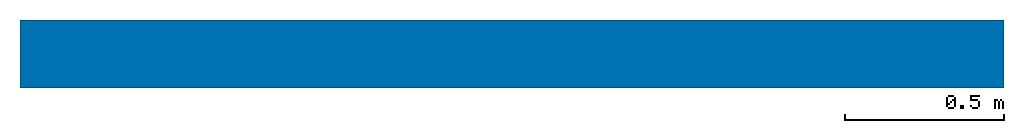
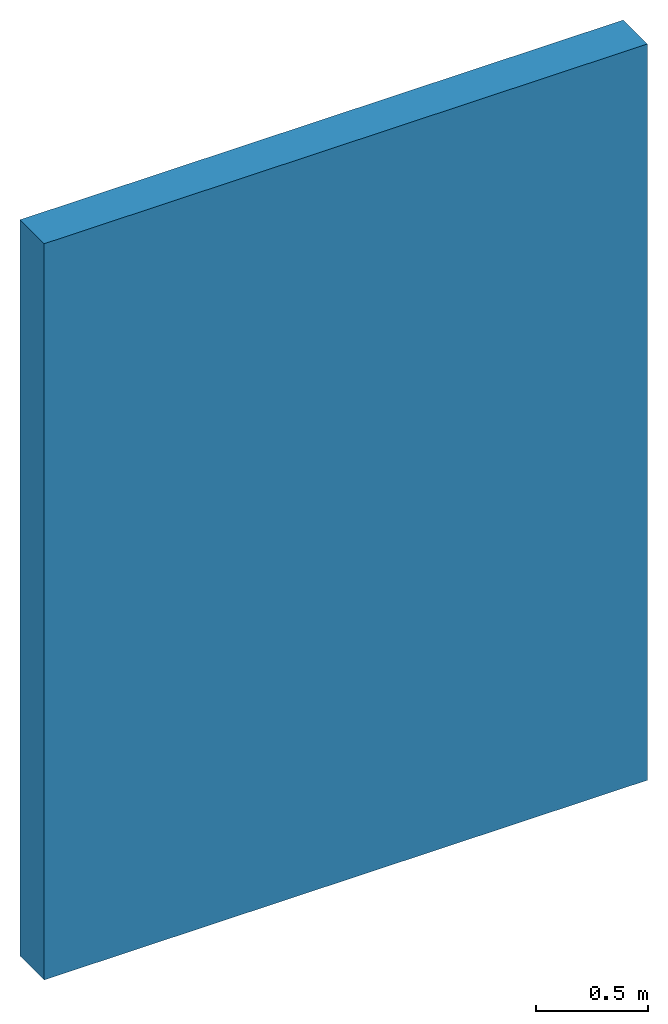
# One storey: 1 wall.
"""IFC2X3 building model written with IfcOpenShell, lengths in millimetres."""

from ifc_helpers import new_model, si_unit, derived_unit, direction, frame, frame_2d, origin, place, context, subcontext, project, spatial, rectangle, extrude, material, layer, layer_set, layer_usage, type_object, element, save


model = new_model("IFC2X3")

# Units and contexts
model_context = context("Model", 3, precision=0.01, world=origin(), true_north=direction((6.123233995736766e-17, 1.0)))
body_context = subcontext(model_context, "Body", "Model", "MODEL_VIEW")
ifc_project = project(units=[si_unit("LENGTHUNIT", "METRE", prefix="MILLI"), si_unit("AREAUNIT", "SQUARE_METRE"), derived_unit("THERMALTRANSMITTANCEUNIT", [(si_unit("MASSUNIT", "GRAM", prefix="KILO"), 1), (si_unit("THERMODYNAMICTEMPERATUREUNIT", "KELVIN"), -1), (si_unit("TIMEUNIT", "SECOND"), -3)])], contexts=[model_context])

# Site, building, storey
site_placement = place(None, origin())
site = spatial("IfcSite", under=ifc_project, at=site_placement, Name="Default", CompositionType="ELEMENT")
building_placement = place(site_placement, origin())
building = spatial("IfcBuilding", under=site, at=building_placement, CompositionType="ELEMENT")
storey_placement = place(building_placement, origin())
storey = spatial("IfcBuildingStorey", under=building, at=storey_placement, Name="Level 0", CompositionType="ELEMENT", Elevation=0.0)

# Wall
ifc_material = material(Name="Brick, Common")
ifc_layer = layer(ifc_material, 215.0)
ifc_layer_set = layer_set([ifc_layer], Name="Basic Wall:Wall-Ext_215Bwk")
ifc_layer_usage = layer_usage(ifc_layer_set, "AXIS2", "NEGATIVE", 107.5)
wall_type = type_object("IfcWallType", Name="Basic Wall:Wall-Ext_215Bwk", PredefinedType="STANDARD", material=ifc_layer_set)
wall_placement = place(storey_placement, frame((-2740.0814170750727, 179.86051272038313, 0.0)))
element("IfcWallStandardCase", 1, at=wall_placement, inside=storey, type_object=wall_type, material=ifc_layer_usage, Name="Basic Wall:Wall-Ext_215Bwk", ObjectType="Basic Wall:Wall-Ext_215Bwk", context=body_context, shape_type="SweptSolid", body=[
    extrude(rectangle(XDim=3100.000000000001, YDim=215.0, at=frame_2d((1550.0000000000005, 7.105427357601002e-15), x_axis=(-1.0, 0.0))), origin(), (0.0, 0.0, 1.0), 3999.9999999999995),
])

save(model, "model.ifc")
